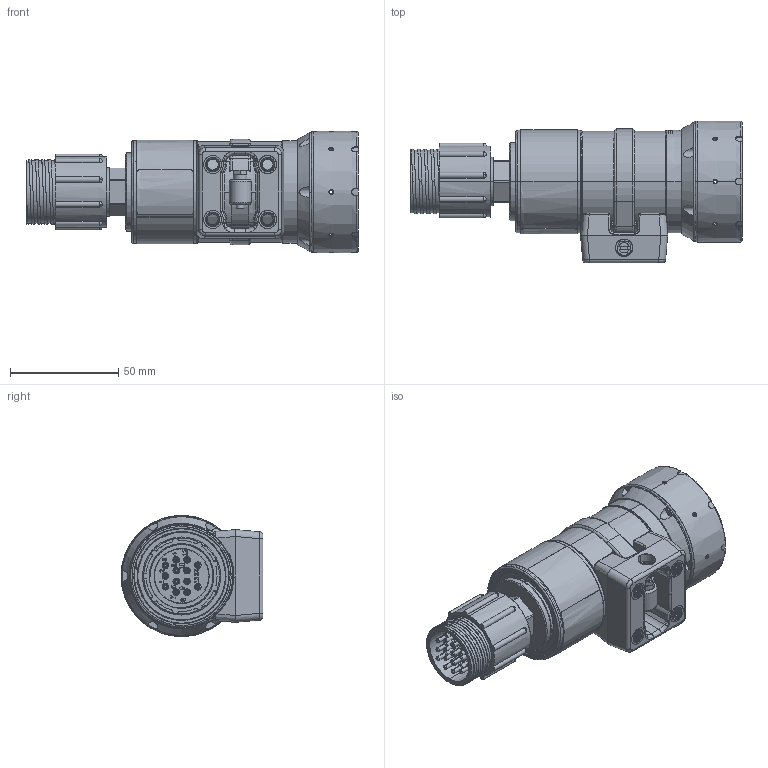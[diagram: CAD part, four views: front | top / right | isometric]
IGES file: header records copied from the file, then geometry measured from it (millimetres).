
Start section: SolidWorks IGES file using analytic representation for surfaces
Global section: file name: C:\workspace\gige-multi-seacam-assemblies\3D_Models\S11252_(MV100-F-TI-BFS-032-C-060-I-SUDBH13MS-13C007).IGS; native system: SolidWorks 2023; preprocessor: SolidWorks 2023; author: analisa.guedea; date: 240822.084627; units: millimetre
Bounding box: 153.6 x 65.63 x 56.01 mm (x, y, z)
Surface area: 51834.1 mm2 (no closed solid volume)
Topology: 0 solids, 0 shells, 797 faces, 12591 edges, 12565 vertices
Faces by surface type: revolution 458, bspline 339
